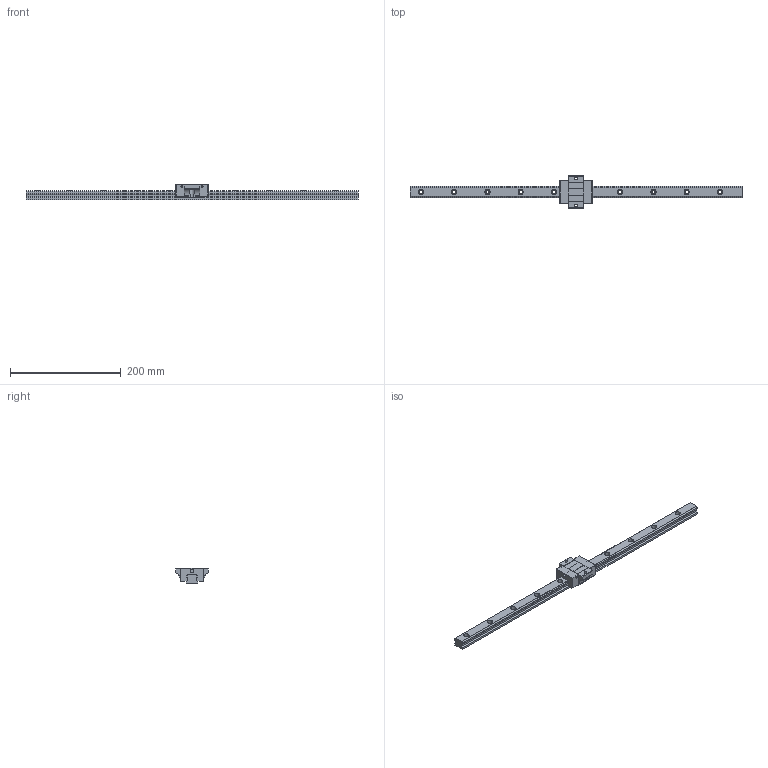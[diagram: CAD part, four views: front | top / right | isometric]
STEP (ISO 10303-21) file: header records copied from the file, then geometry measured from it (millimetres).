
FILE_DESCRIPTION (( 'STEP AP203' ), '1' );
FILE_NAME ('TRS20FS-ZN.STEP', '2024-05-23T01:06:00', ( '' ), ( '' ), 'SwSTEP 2.0', 'SolidWorks 2022', '' );
FILE_SCHEMA (( 'CONFIG_CONTROL_DESIGN' ));
Length unit declared in the file: millimetre
Products named in the file (1): TRS20FS-ZN
Bounding box: 600 x 59 x 28 mm (x, y, z)
Volume: 215295.2 mm3; surface area: 61844.6 mm2
Topology: 2 solids, 2 shells, 224 faces, 596 edges, 388 vertices
Faces by surface type: cylinder 116, plane 104, sphere 4
Entity records: 7263 total; most frequent: CARTESIAN_POINT 1421, DIRECTION 1238, ORIENTED_EDGE 1184, EDGE_CURVE 592, AXIS2_PLACEMENT_3D 441, VERTEX_POINT 388, VECTOR 356, LINE 356
